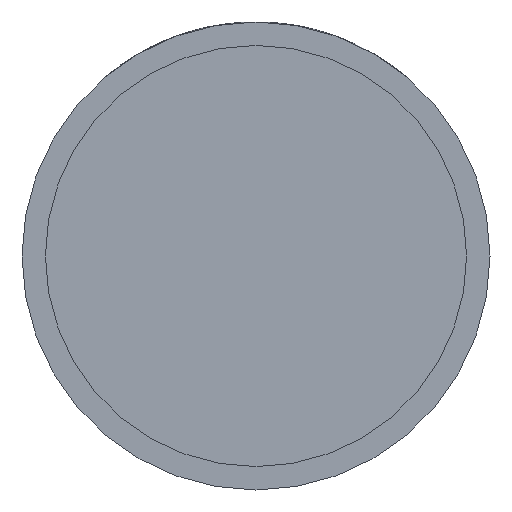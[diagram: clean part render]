
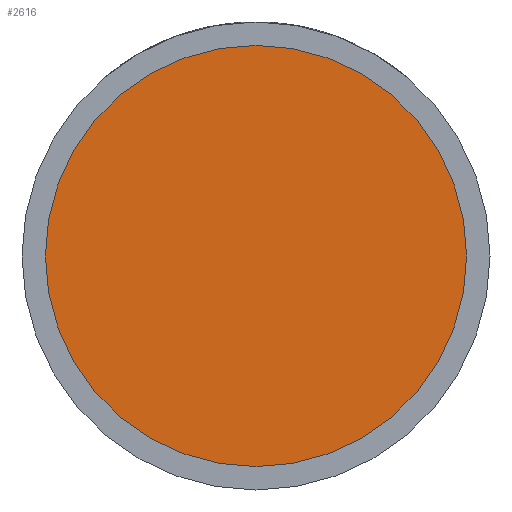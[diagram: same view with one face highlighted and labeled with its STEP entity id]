
A CAD part, front view. The second image highlights one B-rep face of the part: STEP entity #2616.
In plain terms, the highlighted planar face has unit normal (0, -1, 0).
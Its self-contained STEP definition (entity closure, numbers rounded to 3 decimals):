
#197 = CIRCLE ( 'NONE', #1852, 13.5 ) ;
#385 = AXIS2_PLACEMENT_3D ( 'NONE', #528, #564, #3439 ) ;
#528 = CARTESIAN_POINT ( 'NONE',  ( 0., -15., 0. ) ) ;
#564 = DIRECTION ( 'NONE',  ( 0., -1., 0. ) ) ;
#711 = EDGE_LOOP ( 'NONE', ( #3565, #1526 ) ) ;
#1011 = CARTESIAN_POINT ( 'NONE',  ( 13.5, -15., 0. ) ) ;
#1459 = FACE_OUTER_BOUND ( 'NONE', #711, .T. ) ;
#1470 = CARTESIAN_POINT ( 'NONE',  ( 0., -15., 0. ) ) ;
#1526 = ORIENTED_EDGE ( 'NONE', *, *, #2573, .T. ) ;
#1579 = VERTEX_POINT ( 'NONE', #3514 ) ;
#1788 = AXIS2_PLACEMENT_3D ( 'NONE', #1813, #3737, #2726 ) ;
#1813 = CARTESIAN_POINT ( 'NONE',  ( 13.5, -15., 0. ) ) ;
#1852 = AXIS2_PLACEMENT_3D ( 'NONE', #1470, #2832, #1881 ) ;
#1881 = DIRECTION ( 'NONE',  ( 1., 0., 0. ) ) ;
#1978 = CIRCLE ( 'NONE', #385, 13.5 ) ;
#2055 = VERTEX_POINT ( 'NONE', #1011 ) ;
#2448 = PLANE ( 'NONE',  #1788 ) ;
#2573 = EDGE_CURVE ( 'NONE', #1579, #2055, #1978, .T. ) ;
#2616 = ADVANCED_FACE ( 'NONE', ( #1459 ), #2448, .T. ) ;
#2726 = DIRECTION ( 'NONE',  ( 1., 0., 0. ) ) ;
#2832 = DIRECTION ( 'NONE',  ( 0., -1., 0. ) ) ;
#2872 = EDGE_CURVE ( 'NONE', #2055, #1579, #197, .T. ) ;
#3439 = DIRECTION ( 'NONE',  ( 1., 0., 0. ) ) ;
#3514 = CARTESIAN_POINT ( 'NONE',  ( -13.5, -15., 0. ) ) ;
#3565 = ORIENTED_EDGE ( 'NONE', *, *, #2872, .T. ) ;
#3737 = DIRECTION ( 'NONE',  ( 0., -1., 0. ) ) ;
